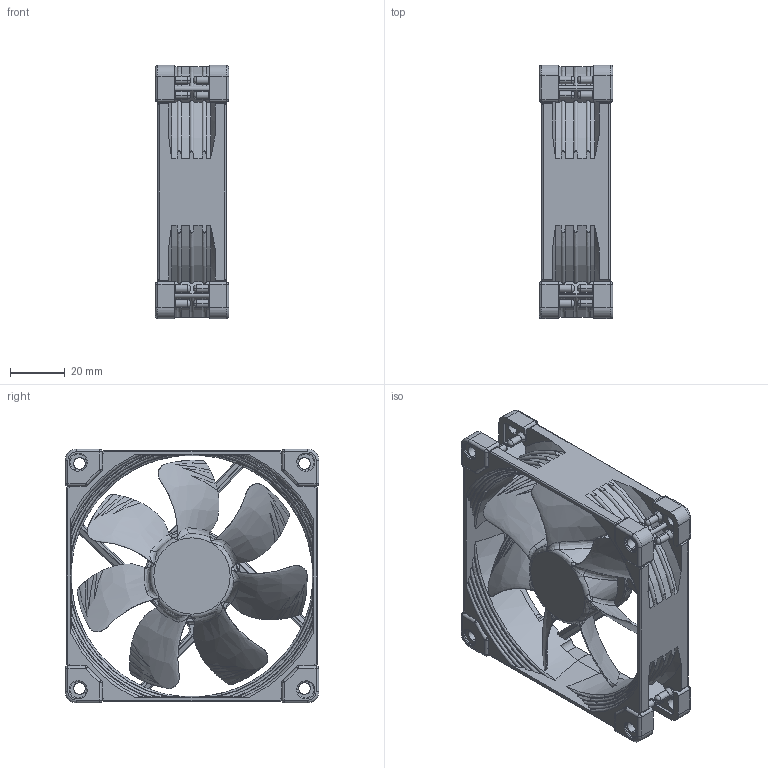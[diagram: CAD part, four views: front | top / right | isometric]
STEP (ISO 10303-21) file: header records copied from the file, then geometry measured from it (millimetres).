
FILE_DESCRIPTION(/* description */ ('140mm Desk Fan'),/* implementation_level */ '2;1');
FILE_NAME(/* name */ 'NF-A9_chromax_public-cad',/* time_stamp */ '2026-04-10T17:04:31+02:00',/* author */ ('Andreas'),/* organization */ ('Rascom'),/* preprocessor_version */ 'ST-DEVELOPER v18.102',/* originating_system */ 'Solid Edge',/* authorisation */ 'Unknown');
FILE_SCHEMA (('AUTOMOTIVE_DESIGN {1 0 10303 214 3 1 1}'));
Length unit declared in the file: millimetre
Products named in the file (6): NF-A9_chromax_public-cad; NF-A9_public-cad; A9_Frame-public; A9_Impeller-public; NA-AVP5; Fan-Label-D29mm-Chromax
Assembly tree (12 placements, depth 3):
  NF-A9_chromax_public-cad
    NF-A9_public-cad
      A9_Frame-public
      A9_Impeller-public
      NA-AVP5  x8
    Fan-Label-D29mm-Chromax
Bounding box: 27 x 93 x 93 mm (x, y, z)
Volume: 52879 mm3; surface area: 49230.3 mm2
Topology: 11 solids, 11 shells, 1542 faces, 4062 edges, 2528 vertices
Faces by surface type: cylinder 685, plane 415, torus 226, bspline 113, cone 65, sphere 38
Full cylindrical faces by diameter (mm): 29 x2
Entity records: 42567 total; most frequent: CARTESIAN_POINT 17484, ORIENTED_EDGE 5748, DIRECTION 4276, EDGE_CURVE 2874, VERTEX_POINT 1841, AXIS2_PLACEMENT_3D 1639, EDGE_LOOP 1139, FACE_BOUND 1139
